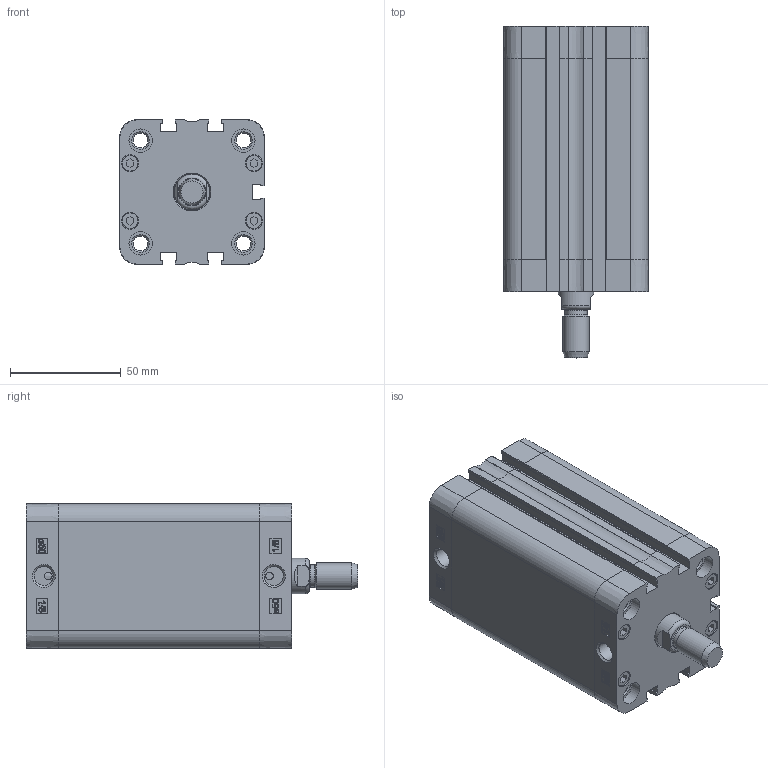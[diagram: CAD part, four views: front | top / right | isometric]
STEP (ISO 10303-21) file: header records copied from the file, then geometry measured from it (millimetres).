
FILE_DESCRIPTION((''),'2;1');
FILE_NAME('T:\Archivio Inventor\- CATALOGHI 2012\SERIE P - NUOVA\PDM\PDM050\PDM050.---.GS.M\PDM050.075.GS.M.stp','2013-02-01T12:20:31',('Administrator'),(''),'Autodesk Inventor 2012','Autodesk Inventor 2012','');
FILE_SCHEMA(('CONFIG_CONTROL_DESIGN'));
Length unit declared in the file: millimetre
Products named in the file (1): PDM050.075.GS.M
Bounding box: 65.5 x 150 x 65.5 mm (x, y, z)
Volume: 246775.5 mm3; surface area: 97095 mm2
Topology: 2 solids, 6 shells, 780 faces, 1860 edges, 1167 vertices
Faces by surface type: plane 335, bspline 196, cylinder 131, torus 56, cone 46, sphere 16
Full cylindrical faces by diameter (mm): 3.5 x2, 5.2 x4, 6.647 x8, 7.5 x8, 7.7 x8, 8.047 x4, 8.566 x2, 10 x1, 10.5 x8, 12 x2, 16 x1, 16.5 x1, 50 x1, 52.4 x1, 52.6 x1
Entity records: 25595 total; most frequent: CARTESIAN_POINT 8480, ORIENTED_EDGE 3488, DIRECTION 2866, EDGE_CURVE 1744, VERTEX_POINT 1148, AXIS2_PLACEMENT_3D 978, EDGE_LOOP 962, VECTOR 910
